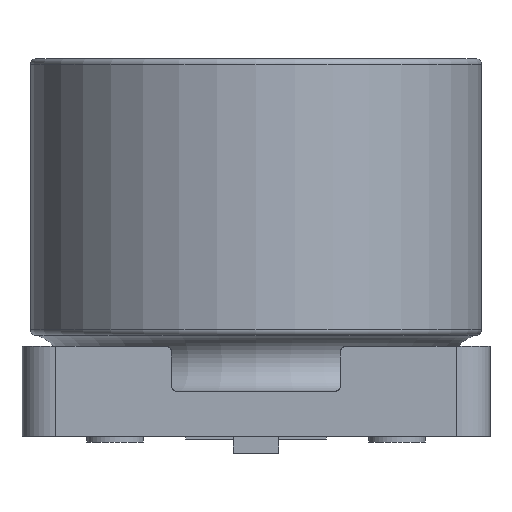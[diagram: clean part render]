
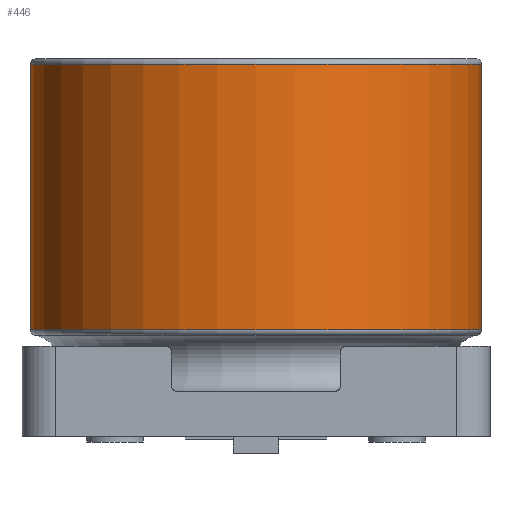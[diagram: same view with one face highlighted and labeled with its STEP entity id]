
A CAD part, left-side view. The second image highlights one B-rep face of the part: STEP entity #446.
In plain terms, the highlighted cylindrical face has radius 4 mm (diameter 8 mm), a full revolution.
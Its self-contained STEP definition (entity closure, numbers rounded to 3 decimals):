
#219=CYLINDRICAL_SURFACE('',#2487,4.);
#446=ADVANCED_FACE('',(#598,#599),#219,.T.);
#598=FACE_BOUND('',#672,.T.);
#599=FACE_BOUND('',#673,.T.);
#672=EDGE_LOOP('',(#1125));
#673=EDGE_LOOP('',(#1126));
#790=CIRCLE('',#2485,4.);
#791=CIRCLE('',#2486,4.);
#1125=ORIENTED_EDGE('',*,*,#1840,.T.);
#1126=ORIENTED_EDGE('',*,*,#1841,.T.);
#1591=VERTEX_POINT('',#3752);
#1592=VERTEX_POINT('',#3754);
#1840=EDGE_CURVE('',#1591,#1591,#790,.T.);
#1841=EDGE_CURVE('',#1592,#1592,#791,.T.);
#2485=AXIS2_PLACEMENT_3D('',#3751,#2909,#2910);
#2486=AXIS2_PLACEMENT_3D('',#3753,#2911,#2912);
#2487=AXIS2_PLACEMENT_3D('',#3755,#2913,#2914);
#2909=DIRECTION('',(0.,0.,1.));
#2910=DIRECTION('',(1.,0.,0.));
#2911=DIRECTION('',(0.,0.,-1.));
#2912=DIRECTION('',(-1.,0.,0.));
#2913=DIRECTION('',(0.,0.,-1.));
#2914=DIRECTION('',(-1.,0.,0.));
#3751=CARTESIAN_POINT('',(0.,0.,1.892));
#3752=CARTESIAN_POINT('',(4.,0.,1.892));
#3753=CARTESIAN_POINT('',(0.,0.,6.6));
#3754=CARTESIAN_POINT('',(-4.,0.,6.6));
#3755=CARTESIAN_POINT('',(0.,0.,0.));
